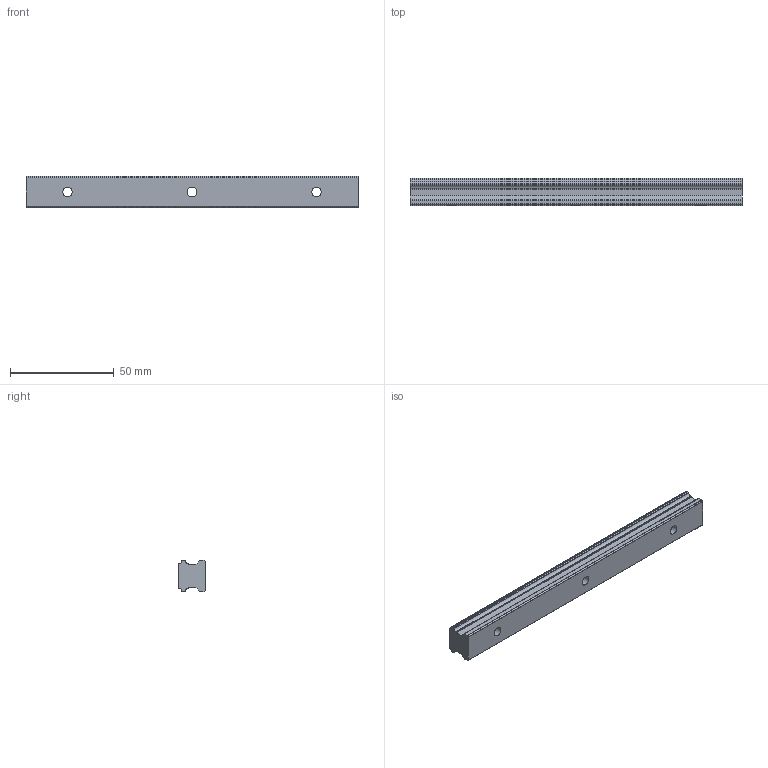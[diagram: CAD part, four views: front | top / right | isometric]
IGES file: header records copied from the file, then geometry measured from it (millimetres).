
Start section: Data from Parasolid IGES Translator 26.0.171, Copyright(c) 2006 Siemens PLM Software. All Rights Reserved.
Global section: file name: SHS15-160L(GK) RAIL(20).igs; native system: By Siemens PLM Incorporated; preprocessor: XPlus GENERIC/IGES 26.0.171; author: Noname; organization: Noname; date: 20240514.034124; units: millimetre
Bounding box: 160 x 13 x 15 mm (x, y, z)
Surface area: 9996.4 mm2 (no closed solid volume)
Topology: 0 solids, 0 shells, 54 faces, 294 edges, 282 vertices
Faces by surface type: revolution 29, extrusion 25
